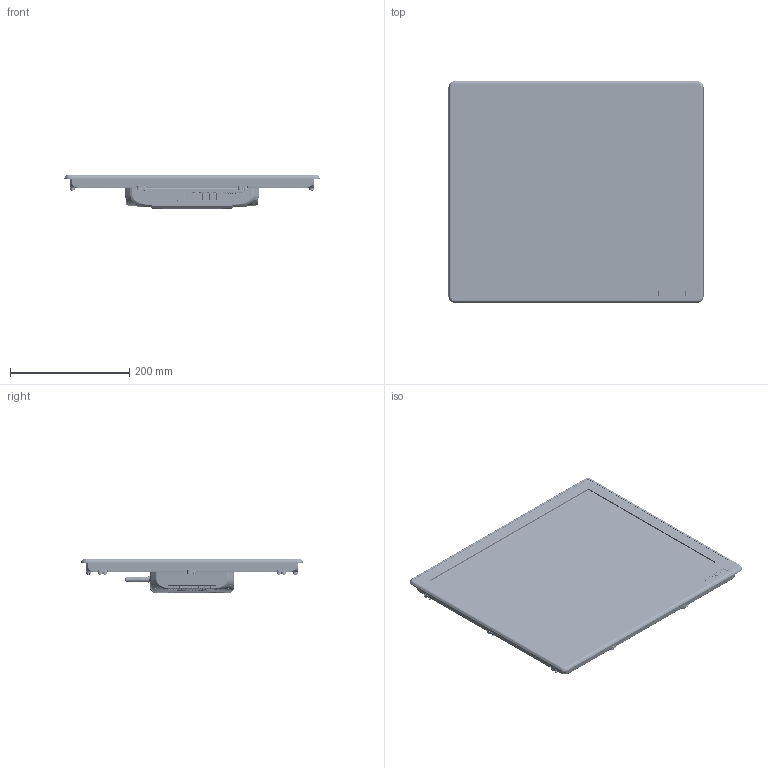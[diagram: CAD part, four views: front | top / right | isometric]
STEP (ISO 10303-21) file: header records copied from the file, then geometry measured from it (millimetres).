
FILE_DESCRIPTION (( 'STEP AP214' ), '1' );
FILE_NAME ('190.STEP', '2024-05-16T05:46:50', ( '' ), ( '' ), 'SwSTEP 2.0', 'SolidWorks 2018', '' );
FILE_SCHEMA (( 'AUTOMOTIVE_DESIGN' ));
Length unit declared in the file: millimetre
Products named in the file (1): 190
Bounding box: 427.79 x 371.79 x 58.46 mm (x, y, z)
Surface area: 943074.8 mm2 (no closed solid volume)
Topology: 0 solids, 831 shells, 15363 faces, 42221 edges, 27655 vertices
Faces by surface type: plane 7628, cylinder 4307, bspline 2308, torus 719, sphere 259, cone 142
Full cylindrical faces by diameter (mm): 0.3 x3, 0.34 x2, 0.5 x18, 0.7 x18, 0.8 x18, 1 x6, 1.2 x3, 1.4 x4, 1.5 x4, 2.2 x14, 2.3 x2, 2.5 x1, 2.6 x4, 3 x1, 3.2 x22, 3.5 x2, 4 x3, 4.2 x22, 4.5 x4, 4.9 x2, 5.9 x1, 6 x2, 7.306 x4, 7.6 x1, 8.1 x1, 8.429 x4
Entity records: 766358 total; most frequent: CARTESIAN_POINT 237973, ORIENTED_EDGE 78584, DIRECTION 65070, EDGE_CURVE 41320, VERTEX_POINT 27527, VECTOR 22630, LINE 22630, AXIS2_PLACEMENT_3D 21220
